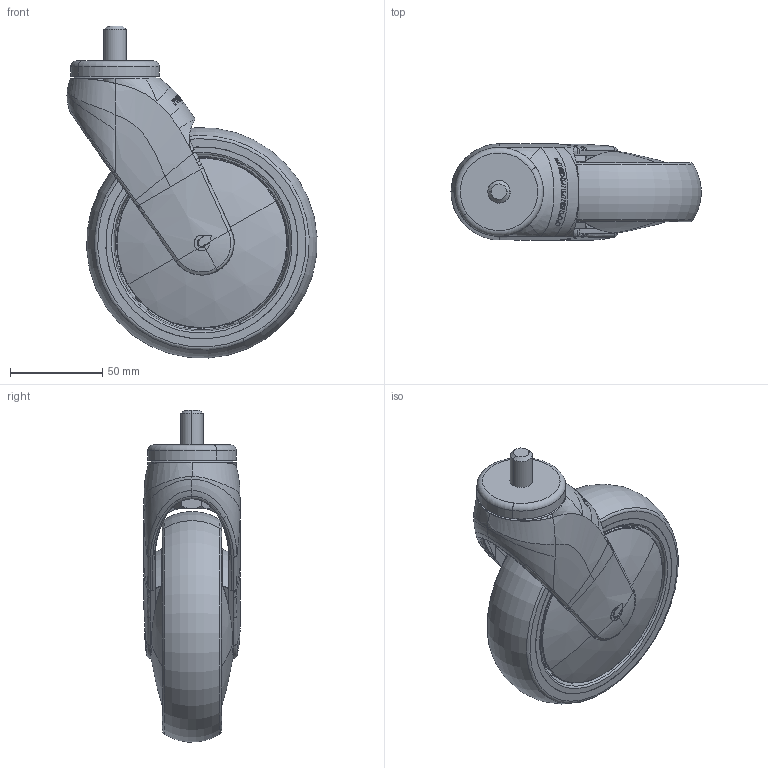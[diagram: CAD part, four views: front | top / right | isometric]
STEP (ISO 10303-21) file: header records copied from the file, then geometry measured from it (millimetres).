
FILE_DESCRIPTION (( 'STEP AP203' ), '1' );
FILE_NAME ('301677_STEP.STEP', '2011-06-10T08:39:36', ( '' ), ( '' ), 'SwSTEP 2.0', 'SolidWorks 2011', '' );
FILE_SCHEMA (( 'CONFIG_CONTROL_DESIGN' ));
Length unit declared in the file: millimetre
Products named in the file (1): 301677_STEP
Bounding box: 135.31 x 52.08 x 179.66 mm (x, y, z)
Surface area: 98211.1 mm2 (no closed solid volume)
Topology: 0 solids, 13 shells, 353 faces, 1226 edges, 831 vertices
Faces by surface type: bspline 216, plane 42, torus 36, cone 30, cylinder 25, sphere 4
Entity records: 92612 total; most frequent: CARTESIAN_POINT 84586, ORIENTED_EDGE 2064, EDGE_CURVE 1219, B_SPLINE_CURVE_WITH_KNOTS 872, VERTEX_POINT 831, DIRECTION 807, EDGE_LOOP 379, ADVANCED_FACE 353
